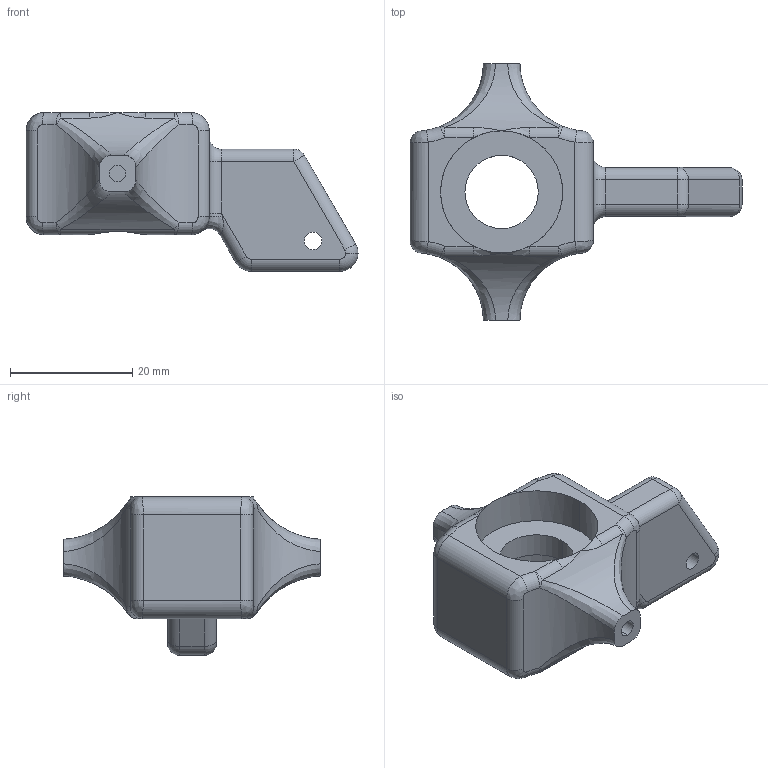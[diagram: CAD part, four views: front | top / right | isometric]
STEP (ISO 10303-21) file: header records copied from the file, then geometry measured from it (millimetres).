
FILE_DESCRIPTION (( 'STEP AP203' ), '1' );
FILE_NAME ('Front Wheel Hub.STEP', '2026-01-17T21:10:54', ( '' ), ( '' ), 'SwSTEP 2.0', 'SolidWorks 2026', '' );
FILE_SCHEMA (( 'CONFIG_CONTROL_DESIGN' ));
Length unit declared in the file: millimetre
Products named in the file (1): Front Wheel Hub
Bounding box: 54.35 x 42 x 26 mm (x, y, z)
Volume: 11775.8 mm3; surface area: 5609.5 mm2
Topology: 1 solids, 1 shells, 117 faces, 274 edges, 156 vertices
Faces by surface type: cylinder 49, bspline 24, plane 18, torus 16, sphere 10
Entity records: 5074 total; most frequent: CARTESIAN_POINT 2465, ORIENTED_EDGE 538, DIRECTION 537, EDGE_CURVE 269, AXIS2_PLACEMENT_3D 228, VERTEX_POINT 156, CIRCLE 134, EDGE_LOOP 123
